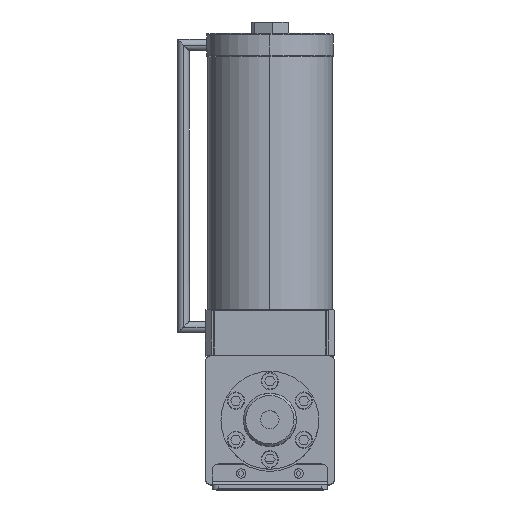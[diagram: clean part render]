
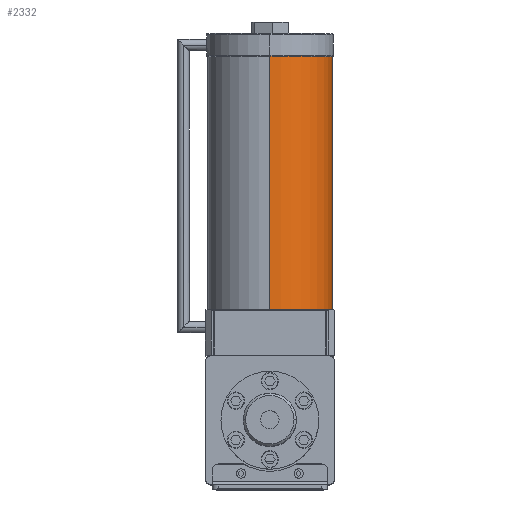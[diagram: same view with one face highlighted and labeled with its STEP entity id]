
A CAD part, top view. The second image highlights one B-rep face of the part: STEP entity #2332.
In plain terms, the highlighted cylindrical face has radius 54 mm (diameter 108 mm), a partial arc.
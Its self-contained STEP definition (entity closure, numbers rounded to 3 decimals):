
#252 = DIRECTION ( 'NONE',  ( 0., 0., -1. ) ) ;
#282 = LINE ( 'NONE', #1251, #4968 ) ;
#590 = CIRCLE ( 'NONE', #3115, 54. ) ;
#665 = CYLINDRICAL_SURFACE ( 'NONE', #853, 54. ) ;
#853 = AXIS2_PLACEMENT_3D ( 'NONE', #8733, #8700, #9188 ) ;
#1251 = CARTESIAN_POINT ( 'NONE',  ( 0., 316., -150. ) ) ;
#1614 = DIRECTION ( 'NONE',  ( 0., 0., 1. ) ) ;
#1683 = CARTESIAN_POINT ( 'NONE',  ( 0., 316., -96. ) ) ;
#1771 = DIRECTION ( 'NONE',  ( 0., 1., 0. ) ) ;
#1932 = DIRECTION ( 'NONE',  ( 0., -1., 0. ) ) ;
#2124 = VECTOR ( 'NONE', #2526, 1000. ) ;
#2194 = ORIENTED_EDGE ( 'NONE', *, *, #3850, .F. ) ;
#2332 = ADVANCED_FACE ( 'NONE', ( #10300 ), #665, .T. ) ;
#2526 = DIRECTION ( 'NONE',  ( 0., -1., 0. ) ) ;
#2716 = ORIENTED_EDGE ( 'NONE', *, *, #3799, .F. ) ;
#2742 = CARTESIAN_POINT ( 'NONE',  ( 0., 316., -42. ) ) ;
#2745 = CARTESIAN_POINT ( 'NONE',  ( 0., 316., -150. ) ) ;
#3110 = VERTEX_POINT ( 'NONE', #2745 ) ;
#3115 = AXIS2_PLACEMENT_3D ( 'NONE', #1683, #1771, #1614 ) ;
#3126 = EDGE_CURVE ( 'NONE', #11131, #3736, #4617, .T. ) ;
#3141 = EDGE_LOOP ( 'NONE', ( #2716, #7808, #6300, #2194 ) ) ;
#3736 = VERTEX_POINT ( 'NONE', #5210 ) ;
#3799 = EDGE_CURVE ( 'NONE', #11131, #3110, #590, .T. ) ;
#3850 = EDGE_CURVE ( 'NONE', #3110, #5575, #282, .T. ) ;
#4617 = LINE ( 'NONE', #2742, #2124 ) ;
#4968 = VECTOR ( 'NONE', #1932, 1000. ) ;
#5210 = CARTESIAN_POINT ( 'NONE',  ( 0., 96., -42. ) ) ;
#5575 = VERTEX_POINT ( 'NONE', #9633 ) ;
#5864 = DIRECTION ( 'NONE',  ( 0., 1., 0. ) ) ;
#6300 = ORIENTED_EDGE ( 'NONE', *, *, #9324, .T. ) ;
#7808 = ORIENTED_EDGE ( 'NONE', *, *, #3126, .T. ) ;
#8466 = CIRCLE ( 'NONE', #8534, 54. ) ;
#8534 = AXIS2_PLACEMENT_3D ( 'NONE', #11097, #5864, #252 ) ;
#8700 = DIRECTION ( 'NONE',  ( 0., -1., 0. ) ) ;
#8733 = CARTESIAN_POINT ( 'NONE',  ( 0., 316., -96. ) ) ;
#9188 = DIRECTION ( 'NONE',  ( 0., 0., -1. ) ) ;
#9324 = EDGE_CURVE ( 'NONE', #3736, #5575, #8466, .T. ) ;
#9633 = CARTESIAN_POINT ( 'NONE',  ( 0., 96., -150. ) ) ;
#10300 = FACE_OUTER_BOUND ( 'NONE', #3141, .T. ) ;
#10654 = CARTESIAN_POINT ( 'NONE',  ( 0., 316., -42. ) ) ;
#11097 = CARTESIAN_POINT ( 'NONE',  ( 0., 96., -96. ) ) ;
#11131 = VERTEX_POINT ( 'NONE', #10654 ) ;
